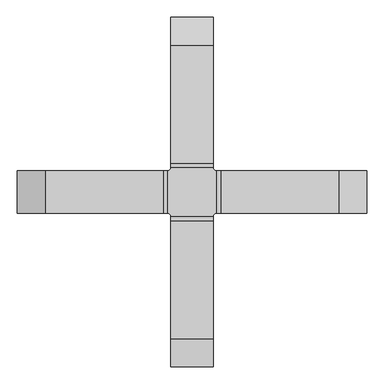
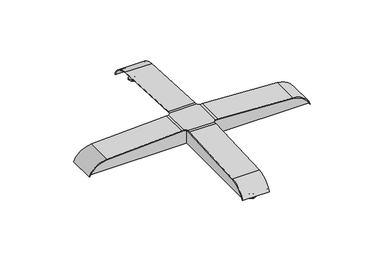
"""IFC4 building model written with IfcOpenShell, lengths in millimetres: furniture geometry, Stance_HC-Rise-Square_ Dining_Table : RTAH-4242-P."""

from ifc_helpers import new_model, si_unit, point, frame, origin, place, context, project, spatial, polyline, circle_curve, ellipse_curve, trimmed, source, transform, mapped, element, save
from ifc_brep_helpers import plane_surface, cylinder_surface, revolved_surface, advanced_brep


def furniture_f4def843(model_context):
    return source(origin(), model_context, "Body", "AdvancedBrep", [
        advanced_brep(
        [(-468.1814543, 0.0, 39.7002), (-459.9345457, 0.0, 39.7002), (-464.058, 0.0, 39.7002), (-468.1814543, 0.0, 14.7574), (-459.9345457, 0.0, 14.7574), (-472.0971, 0.0, 14.7574), (-456.0189, 0.0, 14.7574), (-472.0971, 0.0, 10.2849279), (-456.0189, 0.0, 10.2849279), (-482.0101589, 0.0, 0.0), (-446.1058411, 0.0, 0.0), (-446.1058411, 0.0, 3.5984853), (-482.0101589, 0.0, 3.5984853), (-464.058, 0.0, 0.0)],
        [
            (0, 1, circle_curve(frame((-464.058, 0.0, 39.7002), z_axis=(0.0, 0.0, 1.0), x_axis=(1.0, 0.0, 0.0)), 4.1234543)),
            (1, 2),
            (2, 0),
            (1, 0, circle_curve(frame((-464.058, 0.0, 39.7002), z_axis=(0.0, 0.0, 1.0), x_axis=(1.0, 0.0, 0.0)), 4.1234543)),
            (3, 4, circle_curve(frame((-464.058, 0.0, 14.7574), z_axis=(0.0, 0.0, 1.0), x_axis=(1.0, 0.0, 0.0)), 4.1234543)),
            (4, 1),
            (0, 3),
            (4, 3, circle_curve(frame((-464.058, 0.0, 14.7574), z_axis=(0.0, 0.0, 1.0), x_axis=(1.0, 0.0, 0.0)), 4.1234543)),
            (5, 6, circle_curve(frame((-464.058, 0.0, 14.7574), z_axis=(0.0, 0.0, 1.0), x_axis=(1.0, 0.0, 0.0)), 8.0391)),
            (6, 4),
            (3, 5),
            (6, 5, circle_curve(frame((-464.058, 0.0, 14.7574), z_axis=(0.0, 0.0, 1.0), x_axis=(1.0, 0.0, 0.0)), 8.0391)),
            (7, 8, circle_curve(frame((-464.058, 0.0, 10.2849279), z_axis=(0.0, 0.0, 1.0), x_axis=(1.0, 0.0, 0.0)), 8.0391)),
            (8, 6),
            (5, 7),
            (8, 7, circle_curve(frame((-464.058, 0.0, 10.2849279), z_axis=(0.0, 0.0, 1.0), x_axis=(1.0, 0.0, 0.0)), 8.0391)),
            (9, 10, circle_curve(frame((-464.058, 0.0, 0.0), z_axis=(0.0, 0.0, 1.0), x_axis=(1.0, 0.0, 0.0)), 17.9521589)),
            (10, 11),
            (11, 12, circle_curve(frame((-464.058, 0.0, 3.5984853), z_axis=(0.0, 0.0, -1.0), x_axis=(1.0, 0.0, 0.0)), 17.9521589)),
            (12, 9),
            (10, 9, circle_curve(frame((-464.058, 0.0, 0.0), z_axis=(0.0, 0.0, 1.0), x_axis=(1.0, 0.0, 0.0)), 17.9521589)),
            (12, 11, circle_curve(frame((-464.058, 0.0, 3.5984853), z_axis=(0.0, 0.0, -1.0), x_axis=(1.0, 0.0, 0.0)), 17.9521589)),
            (13, 10),
            (9, 13),
            (11, 8, circle_curve(frame((-446.538795, 0.0, 13.6481832), z_axis=(0.0, 1.0, 0.0), x_axis=(1.0, 0.0, 0.0)), 10.0590197)),
            (7, 12, circle_curve(frame((-481.577205, 0.0, 13.6481832), z_axis=(0.0, 1.0, 0.0), x_axis=(-1.0, 0.0, 0.0)), 10.0590197)),
        ],
        [
            plane_surface(frame((-464.058, 0.0, 39.7002), z_axis=(0.0, 0.0, 1.0), x_axis=(1.0, 0.0, 0.0))),
            cylinder_surface(frame((-464.058, 0.0, 39.7002), z_axis=(0.0, 0.0, -1.0), x_axis=(1.0, 0.0, 0.0)), 4.1234543),
            plane_surface(frame((-464.058, 0.0, 14.7574), z_axis=(0.0, 0.0, 1.0), x_axis=(1.0, 0.0, 0.0))),
            cylinder_surface(frame((-464.058, 0.0, 39.7002), z_axis=(0.0, 0.0, -1.0), x_axis=(1.0, 0.0, 0.0)), 8.0391),
            cylinder_surface(frame((-464.058, 0.0, 39.7002), z_axis=(0.0, 0.0, -1.0), x_axis=(1.0, 0.0, 0.0)), 17.9521589),
            plane_surface(frame((-464.058, 0.0, 0.0), z_axis=(0.0, 0.0, -1.0), x_axis=(1.0, 0.0, 0.0))),
            revolved_surface(trimmed(ellipse_curve(frame((-446.538795, 0.0, 13.6481832), z_axis=(0.0, -1.0, 0.0), x_axis=(1.0, 0.0, 0.0)), 10.0590197, 10.0590197), [point((-456.0189, 0.0, 10.2849279))], [point((-446.1058411, 0.0, 3.5984853))], True, "CARTESIAN"), (-464.058, 0.0, 39.7002), (0.0, 0.0, -1.0)),
        ],
        [
            (0, [[1, 2, 3]]),
            (0, [[4, -3, -2]]),
            (1, [[5, 6, -1, 7]]),
            (1, [[8, -7, -4, -6]]),
            (2, [[9, 10, -5, 11]]),
            (2, [[12, -11, -8, -10]]),
            (3, [[13, 14, -9, 15]]),
            (3, [[16, -15, -12, -14]]),
            (4, [[17, 18, 19, 20]]),
            (4, [[21, -20, 22, -18]]),
            (5, [[23, -17, 24]]),
            (5, [[-24, -21, -23]]),
            (6, [[-19, 25, -13, 26]]),
            (6, [[-22, -26, -16, -25]]),
        ],
    ),
        advanced_brep(
        [(464.058, 0.0, 39.7002), (459.9345457, 0.0, 39.7002), (468.1814543, 0.0, 39.7002), (459.9345457, 0.0, 14.7574), (468.1814543, 0.0, 14.7574), (456.0189, 0.0, 14.7574), (472.0971, 0.0, 14.7574), (456.0189, 0.0, 10.2849279), (472.0971, 0.0, 10.2849279), (482.0101589, 0.0, 3.5984853), (446.1058411, 0.0, 3.5984853), (446.1058411, 0.0, 0.0), (482.0101589, 0.0, 0.0), (464.058, 0.0, 0.0)],
        [
            (0, 1),
            (1, 2, circle_curve(frame((464.058, 0.0, 39.7002), z_axis=(0.0, 0.0, 1.0), x_axis=(-1.0, 0.0, 0.0)), 4.1234543)),
            (2, 0),
            (2, 1, circle_curve(frame((464.058, 0.0, 39.7002), z_axis=(0.0, 0.0, 1.0), x_axis=(-1.0, 0.0, 0.0)), 4.1234543)),
            (1, 3),
            (3, 4, circle_curve(frame((464.058, 0.0, 14.7574), z_axis=(0.0, 0.0, 1.0), x_axis=(-1.0, 0.0, 0.0)), 4.1234543)),
            (4, 2),
            (4, 3, circle_curve(frame((464.058, 0.0, 14.7574), z_axis=(0.0, 0.0, 1.0), x_axis=(-1.0, 0.0, 0.0)), 4.1234543)),
            (3, 5),
            (5, 6, circle_curve(frame((464.058, 0.0, 14.7574), z_axis=(0.0, 0.0, 1.0), x_axis=(-1.0, 0.0, 0.0)), 8.0391)),
            (6, 4),
            (6, 5, circle_curve(frame((464.058, 0.0, 14.7574), z_axis=(0.0, 0.0, 1.0), x_axis=(-1.0, 0.0, 0.0)), 8.0391)),
            (5, 7),
            (7, 8, circle_curve(frame((464.058, 0.0, 10.2849279), z_axis=(0.0, 0.0, 1.0), x_axis=(-1.0, 0.0, 0.0)), 8.0391)),
            (8, 6),
            (8, 7, circle_curve(frame((464.058, 0.0, 10.2849279), z_axis=(0.0, 0.0, 1.0), x_axis=(-1.0, 0.0, 0.0)), 8.0391)),
            (9, 10, circle_curve(frame((464.058, 0.0, 3.5984853), z_axis=(0.0, 0.0, -1.0), x_axis=(-1.0, 0.0, 0.0)), 17.9521589)),
            (10, 11),
            (11, 12, circle_curve(frame((464.058, 0.0, 0.0), z_axis=(0.0, 0.0, 1.0), x_axis=(-1.0, 0.0, 0.0)), 17.9521589)),
            (12, 9),
            (10, 9, circle_curve(frame((464.058, 0.0, 3.5984853), z_axis=(0.0, 0.0, -1.0), x_axis=(-1.0, 0.0, 0.0)), 17.9521589)),
            (12, 11, circle_curve(frame((464.058, 0.0, 0.0), z_axis=(0.0, 0.0, 1.0), x_axis=(-1.0, 0.0, 0.0)), 17.9521589)),
            (11, 13),
            (13, 12),
            (7, 10, circle_curve(frame((446.538795, 0.0, 13.6481832), z_axis=(0.0, 1.0, 0.0), x_axis=(-1.0, 0.0, 0.0)), 10.0590197)),
            (9, 8, circle_curve(frame((481.577205, 0.0, 13.6481832), z_axis=(0.0, 1.0, 0.0), x_axis=(1.0, 0.0, 0.0)), 10.0590197)),
        ],
        [
            plane_surface(frame((464.058, 0.0, 39.7002), z_axis=(0.0, 0.0, 1.0), x_axis=(-1.0, 0.0, 0.0))),
            cylinder_surface(frame((464.058, 0.0, 39.7002), z_axis=(0.0, 0.0, 1.0), x_axis=(-1.0, 0.0, 0.0)), 4.1234543),
            plane_surface(frame((464.058, 0.0, 14.7574), z_axis=(0.0, 0.0, 1.0), x_axis=(-1.0, 0.0, 0.0))),
            cylinder_surface(frame((464.058, 0.0, 39.7002), z_axis=(0.0, 0.0, 1.0), x_axis=(-1.0, 0.0, 0.0)), 8.0391),
            cylinder_surface(frame((464.058, 0.0, 39.7002), z_axis=(0.0, 0.0, 1.0), x_axis=(-1.0, 0.0, 0.0)), 17.9521589),
            plane_surface(frame((464.058, 0.0, 0.0), z_axis=(0.0, 0.0, -1.0), x_axis=(-1.0, 0.0, 0.0))),
            revolved_surface(trimmed(ellipse_curve(frame((446.538795, 0.0, 13.6481832), z_axis=(0.0, -1.0, 0.0), x_axis=(-1.0, 0.0, 0.0)), 10.0590197, 10.0590197), [point((446.1058411, 0.0, 3.5984853))], [point((456.0189, 0.0, 10.2849279))], True, "CARTESIAN"), (464.058, 0.0, 39.7002), (0.0, 0.0, 1.0)),
        ],
        [
            (0, [[1, 2, 3]]),
            (0, [[-3, 4, -1]]),
            (1, [[-2, 5, 6, 7]]),
            (1, [[-4, -7, 8, -5]]),
            (2, [[-6, 9, 10, 11]]),
            (2, [[-8, -11, 12, -9]]),
            (3, [[-10, 13, 14, 15]]),
            (3, [[-12, -15, 16, -13]]),
            (4, [[17, 18, 19, 20]]),
            (4, [[21, -20, 22, -18]]),
            (5, [[-19, 23, 24]]),
            (5, [[-22, -24, -23]]),
            (6, [[-14, 25, -17, 26]]),
            (6, [[-16, -26, -21, -25]]),
        ],
    ),
        advanced_brep(
        [(0.0, -464.058, 39.7002), (0.0, -459.9345457, 39.7002), (0.0, -468.1814543, 39.7002), (0.0, -459.9345457, 14.7574), (0.0, -468.1814543, 14.7574), (0.0, -456.0189, 14.7574), (0.0, -472.0971, 14.7574), (0.0, -456.0189, 10.2849279), (0.0, -472.0971, 10.2849279), (0.0, -482.0101589, 3.5984853), (0.0, -446.1058411, 3.5984853), (0.0, -446.1058411, 0.0), (0.0, -482.0101589, 0.0), (0.0, -464.058, 0.0)],
        [
            (0, 1),
            (1, 2, circle_curve(frame((0.0, -464.058, 39.7002), z_axis=(0.0, 0.0, 1.0), x_axis=(0.0, 1.0, 0.0)), 4.1234543)),
            (2, 0),
            (2, 1, circle_curve(frame((0.0, -464.058, 39.7002), z_axis=(0.0, 0.0, 1.0), x_axis=(0.0, 1.0, 0.0)), 4.1234543)),
            (1, 3),
            (3, 4, circle_curve(frame((0.0, -464.058, 14.7574), z_axis=(0.0, 0.0, 1.0), x_axis=(0.0, 1.0, 0.0)), 4.1234543)),
            (4, 2),
            (4, 3, circle_curve(frame((0.0, -464.058, 14.7574), z_axis=(0.0, 0.0, 1.0), x_axis=(0.0, 1.0, 0.0)), 4.1234543)),
            (3, 5),
            (5, 6, circle_curve(frame((0.0, -464.058, 14.7574), z_axis=(0.0, 0.0, 1.0), x_axis=(0.0, 1.0, 0.0)), 8.0391)),
            (6, 4),
            (6, 5, circle_curve(frame((0.0, -464.058, 14.7574), z_axis=(0.0, 0.0, 1.0), x_axis=(0.0, 1.0, 0.0)), 8.0391)),
            (5, 7),
            (7, 8, circle_curve(frame((0.0, -464.058, 10.2849279), z_axis=(0.0, 0.0, 1.0), x_axis=(0.0, 1.0, 0.0)), 8.0391)),
            (8, 6),
            (8, 7, circle_curve(frame((0.0, -464.058, 10.2849279), z_axis=(0.0, 0.0, 1.0), x_axis=(0.0, 1.0, 0.0)), 8.0391)),
            (9, 10, circle_curve(frame((0.0, -464.058, 3.5984853), z_axis=(0.0, 0.0, -1.0), x_axis=(0.0, 1.0, 0.0)), 17.9521589)),
            (10, 11),
            (11, 12, circle_curve(frame((0.0, -464.058, 0.0), z_axis=(0.0, 0.0, 1.0), x_axis=(0.0, 1.0, 0.0)), 17.9521589)),
            (12, 9),
            (10, 9, circle_curve(frame((0.0, -464.058, 3.5984853), z_axis=(0.0, 0.0, -1.0), x_axis=(0.0, 1.0, 0.0)), 17.9521589)),
            (12, 11, circle_curve(frame((0.0, -464.058, 0.0), z_axis=(0.0, 0.0, 1.0), x_axis=(0.0, 1.0, 0.0)), 17.9521589)),
            (11, 13),
            (13, 12),
            (7, 10, circle_curve(frame((0.0, -446.538795, 13.6481832), z_axis=(1.0, 0.0, 0.0), x_axis=(0.0, 1.0, 0.0)), 10.0590197)),
            (9, 8, circle_curve(frame((0.0, -481.577205, 13.6481832), z_axis=(1.0, 0.0, 0.0), x_axis=(0.0, -1.0, 0.0)), 10.0590197)),
        ],
        [
            plane_surface(frame((0.0, -464.058, 39.7002), z_axis=(0.0, 0.0, 1.0), x_axis=(0.0, 1.0, 0.0))),
            cylinder_surface(frame((0.0, -464.058, 39.7002), z_axis=(0.0, 0.0, 1.0), x_axis=(0.0, 1.0, 0.0)), 4.1234543),
            plane_surface(frame((0.0, -464.058, 14.7574), z_axis=(0.0, 0.0, 1.0), x_axis=(0.0, 1.0, 0.0))),
            cylinder_surface(frame((0.0, -464.058, 39.7002), z_axis=(0.0, 0.0, 1.0), x_axis=(0.0, 1.0, 0.0)), 8.0391),
            cylinder_surface(frame((0.0, -464.058, 39.7002), z_axis=(0.0, 0.0, 1.0), x_axis=(0.0, 1.0, 0.0)), 17.9521589),
            plane_surface(frame((0.0, -464.058, 0.0), z_axis=(0.0, 0.0, -1.0), x_axis=(0.0, 1.0, 0.0))),
            revolved_surface(trimmed(ellipse_curve(frame((0.0, -446.538795, 13.6481832), z_axis=(-1.0, 0.0, 0.0), x_axis=(0.0, 1.0, 0.0)), 10.0590197, 10.0590197), [point((0.0, -446.1058411, 3.5984853))], [point((0.0, -456.0189, 10.2849279))], True, "CARTESIAN"), (0.0, -464.058, 39.7002), (0.0, 0.0, 1.0)),
        ],
        [
            (0, [[1, 2, 3]]),
            (0, [[-3, 4, -1]]),
            (1, [[-2, 5, 6, 7]]),
            (1, [[-4, -7, 8, -5]]),
            (2, [[-6, 9, 10, 11]]),
            (2, [[-8, -11, 12, -9]]),
            (3, [[-10, 13, 14, 15]]),
            (3, [[-12, -15, 16, -13]]),
            (4, [[17, 18, 19, 20]]),
            (4, [[21, -20, 22, -18]]),
            (5, [[-19, 23, 24]]),
            (5, [[-22, -24, -23]]),
            (6, [[-14, 25, -17, 26]]),
            (6, [[-16, -26, -21, -25]]),
        ],
    ),
        advanced_brep(
        [(0.0, 468.1814543, 39.7002), (0.0, 459.9345457, 39.7002), (0.0, 464.058, 39.7002), (0.0, 468.1814543, 14.7574), (0.0, 459.9345457, 14.7574), (0.0, 472.0971, 14.7574), (0.0, 456.0189, 14.7574), (0.0, 472.0971, 10.2849279), (0.0, 456.0189, 10.2849279), (0.0, 482.0101589, 0.0), (0.0, 446.1058411, 0.0), (0.0, 446.1058411, 3.5984853), (0.0, 482.0101589, 3.5984853), (0.0, 464.058, 0.0)],
        [
            (0, 1, circle_curve(frame((0.0, 464.058, 39.7002), z_axis=(0.0, 0.0, 1.0), x_axis=(0.0, -1.0, 0.0)), 4.1234543)),
            (1, 2),
            (2, 0),
            (1, 0, circle_curve(frame((0.0, 464.058, 39.7002), z_axis=(0.0, 0.0, 1.0), x_axis=(0.0, -1.0, 0.0)), 4.1234543)),
            (3, 4, circle_curve(frame((0.0, 464.058, 14.7574), z_axis=(0.0, 0.0, 1.0), x_axis=(0.0, -1.0, 0.0)), 4.1234543)),
            (4, 1),
            (0, 3),
            (4, 3, circle_curve(frame((0.0, 464.058, 14.7574), z_axis=(0.0, 0.0, 1.0), x_axis=(0.0, -1.0, 0.0)), 4.1234543)),
            (5, 6, circle_curve(frame((0.0, 464.058, 14.7574), z_axis=(0.0, 0.0, 1.0), x_axis=(0.0, -1.0, 0.0)), 8.0391)),
            (6, 4),
            (3, 5),
            (6, 5, circle_curve(frame((0.0, 464.058, 14.7574), z_axis=(0.0, 0.0, 1.0), x_axis=(0.0, -1.0, 0.0)), 8.0391)),
            (7, 8, circle_curve(frame((0.0, 464.058, 10.2849279), z_axis=(0.0, 0.0, 1.0), x_axis=(0.0, -1.0, 0.0)), 8.0391)),
            (8, 6),
            (5, 7),
            (8, 7, circle_curve(frame((0.0, 464.058, 10.2849279), z_axis=(0.0, 0.0, 1.0), x_axis=(0.0, -1.0, 0.0)), 8.0391)),
            (9, 10, circle_curve(frame((0.0, 464.058, 0.0), z_axis=(0.0, 0.0, 1.0), x_axis=(0.0, -1.0, 0.0)), 17.9521589)),
            (10, 11),
            (11, 12, circle_curve(frame((0.0, 464.058, 3.5984853), z_axis=(0.0, 0.0, -1.0), x_axis=(0.0, -1.0, 0.0)), 17.9521589)),
            (12, 9),
            (10, 9, circle_curve(frame((0.0, 464.058, 0.0), z_axis=(0.0, 0.0, 1.0), x_axis=(0.0, -1.0, 0.0)), 17.9521589)),
            (12, 11, circle_curve(frame((0.0, 464.058, 3.5984853), z_axis=(0.0, 0.0, -1.0), x_axis=(0.0, -1.0, 0.0)), 17.9521589)),
            (13, 10),
            (9, 13),
            (11, 8, circle_curve(frame((0.0, 446.538795, 13.6481832), z_axis=(1.0, 0.0, 0.0), x_axis=(0.0, -1.0, 0.0)), 10.0590197)),
            (7, 12, circle_curve(frame((0.0, 481.577205, 13.6481832), z_axis=(1.0, 0.0, 0.0), x_axis=(0.0, 1.0, 0.0)), 10.0590197)),
        ],
        [
            plane_surface(frame((0.0, 464.058, 39.7002), z_axis=(0.0, 0.0, 1.0), x_axis=(0.0, -1.0, 0.0))),
            cylinder_surface(frame((0.0, 464.058, 39.7002), z_axis=(0.0, 0.0, -1.0), x_axis=(0.0, -1.0, 0.0)), 4.1234543),
            plane_surface(frame((0.0, 464.058, 14.7574), z_axis=(0.0, 0.0, 1.0), x_axis=(0.0, -1.0, 0.0))),
            cylinder_surface(frame((0.0, 464.058, 39.7002), z_axis=(0.0, 0.0, -1.0), x_axis=(0.0, -1.0, 0.0)), 8.0391),
            cylinder_surface(frame((0.0, 464.058, 39.7002), z_axis=(0.0, 0.0, -1.0), x_axis=(0.0, -1.0, 0.0)), 17.9521589),
            plane_surface(frame((0.0, 464.058, 0.0), z_axis=(0.0, 0.0, -1.0), x_axis=(0.0, -1.0, 0.0))),
            revolved_surface(trimmed(ellipse_curve(frame((0.0, 446.538795, 13.6481832), z_axis=(-1.0, 0.0, 0.0), x_axis=(0.0, -1.0, 0.0)), 10.0590197, 10.0590197), [point((0.0, 456.0189, 10.2849279))], [point((0.0, 446.1058411, 3.5984853))], True, "CARTESIAN"), (0.0, 464.058, 39.7002), (0.0, 0.0, -1.0)),
        ],
        [
            (0, [[1, 2, 3]]),
            (0, [[4, -3, -2]]),
            (1, [[5, 6, -1, 7]]),
            (1, [[8, -7, -4, -6]]),
            (2, [[9, 10, -5, 11]]),
            (2, [[12, -11, -8, -10]]),
            (3, [[13, 14, -9, 15]]),
            (3, [[16, -15, -12, -14]]),
            (4, [[17, 18, 19, 20]]),
            (4, [[21, -20, 22, -18]]),
            (5, [[23, -17, 24]]),
            (5, [[-24, -21, -23]]),
            (6, [[-19, 25, -13, 26]]),
            (6, [[-22, -26, -16, -25]]),
        ],
    ),
        advanced_brep(
        [(60.325, 420.6378786, 74.5825817), (60.325, 498.1978983, 20.2927555), (60.325, 500.6635132, 21.3402677), (60.325, 420.7780817, 77.2578166), (60.325, 82.318215, 94.9957465), (60.325, 70.2140123, 95.3127062), (60.325, 70.2140123, 92.6338), (60.325, 82.1780119, 92.3205116), (60.325, -420.6378786, 74.5825817), (60.325, -82.1780119, 92.3205116), (60.325, -70.2140123, 92.6338), (60.325, -70.2140123, 95.3127062), (60.325, -82.318215, 94.9957465), (60.325, -420.7780817, 77.2578166), (60.325, -500.6635132, 21.3402677), (60.325, -498.1978983, 20.2927555), (-60.325, 420.6378786, 74.5825817), (-60.325, 82.1780119, 92.3205116), (-60.325, 70.2140123, 92.6338), (-60.325, 70.2140123, 95.3127062), (-60.325, 82.318215, 94.9957465), (-60.325, 420.7780817, 77.2578166), (-60.325, 500.6635132, 21.3402677), (-60.325, 498.1978983, 20.2927555), (-60.325, -420.6378786, 74.5825817), (-60.325, -498.1978983, 20.2927555), (-60.325, -500.6635132, 21.3402677), (-60.325, -420.7780817, 77.2578166), (-60.325, -82.318215, 94.9957465), (-60.325, -70.2140123, 95.3127062), (-60.325, -70.2140123, 92.6338), (-60.325, -82.1780119, 92.3205116), (-70.2648498, -60.6285662, 95.3127062), (-60.639995, -70.2140123, 95.3127062), (60.639995, -70.2140123, 95.3127062), (70.1631748, -60.6516433, 95.3127062), (70.1631748, -60.325, 95.3127062), (70.1631748, 60.325, 95.3127062), (70.1631748, 60.6516433, 95.3127062), (60.639995, 70.2140123, 95.3127062), (-60.639995, 70.2140123, 95.3127062), (-70.2648498, 60.6285662, 95.3127062), (-70.2648498, 60.325, 95.3127062), (-70.2648498, -60.325, 95.3127062), (-70.2648498, 60.6285662, 92.6338), (-60.639995, 70.2140123, 92.6338), (60.639995, 70.2140123, 92.6338), (70.1631748, 60.6516433, 92.6338), (70.1631748, 60.325, 92.6338), (70.1631748, -60.325, 92.6338), (70.1631748, -60.6516433, 92.6338), (60.639995, -70.2140123, 92.6338), (-60.639995, -70.2140123, 92.6338), (-70.2648498, -60.6285662, 92.6338), (-70.2648498, -60.325, 92.6338), (-70.2648498, 60.325, 92.6338), (-420.688716, 60.325, 74.5825817), (-498.2487358, 60.325, 20.2927555), (-500.7143507, 60.325, 21.3402677), (-420.8289192, 60.325, 77.2578166), (-82.3690525, 60.325, 94.9957465), (-82.2288494, 60.325, 92.3205116), (420.5870411, 60.325, 74.5825817), (82.1271744, 60.325, 92.3205116), (82.2673775, 60.325, 94.9957465), (420.7272442, 60.325, 77.2578166), (500.6126758, 60.325, 21.3402677), (498.1470609, 60.325, 20.2927555), (-420.688716, -60.325, 74.5825817), (-82.2288494, -60.325, 92.3205116), (-82.3690525, -60.325, 94.9957465), (-420.8289192, -60.325, 77.2578166), (-500.7143507, -60.325, 21.3402677), (-498.2487358, -60.325, 20.2927555), (420.5870411, -60.325, 74.5825817), (498.1470609, -60.325, 20.2927555), (500.6126758, -60.325, 21.3402677), (420.7272442, -60.325, 77.2578166), (82.2673775, -60.325, 94.9957465), (82.1271744, -60.325, 92.3205116)],
        [
            (0, 1, circle_curve(frame((60.325, 415.9616501, -14.6451736), z_axis=(-1.0, 0.0, 0.0), x_axis=(0.0, -1.0, 0.0)), 89.3502066)),
            (1, 2),
            (2, 3, circle_curve(frame((60.325, 415.9616501, -14.6451736), z_axis=(1.0, 0.0, 0.0), x_axis=(0.0, -1.0, 0.0)), 92.0291128)),
            (3, 4),
            (4, 5, circle_curve(frame((60.325, 70.2140123, -135.9662), z_axis=(1.0, 0.0, 0.0), x_axis=(0.0, -1.0, 0.0)), 231.2789063)),
            (5, 6),
            (6, 7, circle_curve(frame((60.325, 70.2140123, -135.9662), z_axis=(-1.0, 0.0, 0.0), x_axis=(0.0, -1.0, 0.0)), 228.6)),
            (7, 0),
            (8, 9),
            (9, 10, circle_curve(frame((60.325, -70.2140123, -135.9662), z_axis=(-1.0, 0.0, 0.0), x_axis=(0.0, 1.0, 0.0)), 228.6)),
            (10, 11),
            (11, 12, circle_curve(frame((60.325, -70.2140123, -135.9662), z_axis=(1.0, 0.0, 0.0), x_axis=(0.0, 1.0, 0.0)), 231.2789063)),
            (12, 13),
            (13, 14, circle_curve(frame((60.325, -415.9616501, -14.6451736), z_axis=(1.0, 0.0, 0.0), x_axis=(0.0, 1.0, 0.0)), 92.0291128)),
            (14, 15),
            (15, 8, circle_curve(frame((60.325, -415.9616501, -14.6451736), z_axis=(-1.0, 0.0, 0.0), x_axis=(0.0, 1.0, 0.0)), 89.3502066)),
            (16, 17),
            (17, 18, circle_curve(frame((-60.325, 70.2140123, -135.9662), z_axis=(1.0, 0.0, 0.0), x_axis=(0.0, -1.0, 0.0)), 228.6)),
            (18, 19),
            (19, 20, circle_curve(frame((-60.325, 70.2140123, -135.9662), z_axis=(-1.0, 0.0, 0.0), x_axis=(0.0, -1.0, 0.0)), 231.2789063)),
            (20, 21),
            (21, 22, circle_curve(frame((-60.325, 415.9616501, -14.6451736), z_axis=(-1.0, 0.0, 0.0), x_axis=(0.0, -1.0, 0.0)), 92.0291128)),
            (22, 23),
            (23, 16, circle_curve(frame((-60.325, 415.9616501, -14.6451736), z_axis=(1.0, 0.0, 0.0), x_axis=(0.0, -1.0, 0.0)), 89.3502066)),
            (24, 25, circle_curve(frame((-60.325, -415.9616501, -14.6451736), z_axis=(1.0, 0.0, 0.0), x_axis=(0.0, 1.0, 0.0)), 89.3502066)),
            (25, 26),
            (26, 27, circle_curve(frame((-60.325, -415.9616501, -14.6451736), z_axis=(-1.0, 0.0, 0.0), x_axis=(0.0, 1.0, 0.0)), 92.0291128)),
            (27, 28),
            (28, 29, circle_curve(frame((-60.325, -70.2140123, -135.9662), z_axis=(-1.0, 0.0, 0.0), x_axis=(0.0, 1.0, 0.0)), 231.2789063)),
            (29, 30),
            (30, 31, circle_curve(frame((-60.325, -70.2140123, -135.9662), z_axis=(1.0, 0.0, 0.0), x_axis=(0.0, 1.0, 0.0)), 228.6)),
            (31, 24),
            (7, 17),
            (16, 0),
            (23, 1),
            (22, 2),
            (32, 33, circle_curve(frame((-73.025, -73.025, 95.3127062), z_axis=(0.0, 0.0, -1.0), x_axis=(1.0, 0.0, 0.0)), 12.7)),
            (33, 29),
            (29, 11),
            (11, 34),
            (34, 35, circle_curve(frame((73.025, -73.025, 95.3127062), z_axis=(0.0, 0.0, -1.0), x_axis=(1.0, 0.0, 0.0)), 12.7)),
            (35, 36),
            (36, 37),
            (37, 38),
            (38, 39, circle_curve(frame((73.025, 73.025, 95.3127062), z_axis=(0.0, 0.0, -1.0), x_axis=(1.0, 0.0, 0.0)), 12.7)),
            (39, 5),
            (5, 19),
            (19, 40),
            (40, 41, circle_curve(frame((-73.025, 73.025, 95.3127062), z_axis=(0.0, 0.0, -1.0), x_axis=(1.0, 0.0, 0.0)), 12.7)),
            (41, 42),
            (42, 43),
            (43, 32),
            (44, 45, circle_curve(frame((-73.025, 73.025, 92.6338), z_axis=(0.0, 0.0, 1.0), x_axis=(1.0, 0.0, 0.0)), 12.7)),
            (45, 18),
            (18, 6),
            (6, 46),
            (46, 47, circle_curve(frame((73.025, 73.025, 92.6338), z_axis=(0.0, 0.0, 1.0), x_axis=(1.0, 0.0, 0.0)), 12.7)),
            (47, 48),
            (48, 49),
            (49, 50),
            (50, 51, circle_curve(frame((73.025, -73.025, 92.6338), z_axis=(0.0, 0.0, 1.0), x_axis=(1.0, 0.0, 0.0)), 12.7)),
            (51, 10),
            (10, 30),
            (30, 52),
            (52, 53, circle_curve(frame((-73.025, -73.025, 92.6338), z_axis=(0.0, 0.0, 1.0), x_axis=(1.0, 0.0, 0.0)), 12.7)),
            (53, 54),
            (54, 55),
            (55, 44),
            (32, 53),
            (52, 33),
            (34, 51),
            (50, 35),
            (38, 47),
            (46, 39),
            (40, 45),
            (44, 41),
            (21, 3),
            (20, 4),
            (8, 24),
            (31, 9),
            (28, 12),
            (27, 13),
            (26, 14),
            (25, 15),
            (43, 54),
            (55, 42),
            (49, 36),
            (37, 48),
            (56, 57, circle_curve(frame((-416.0124875, 60.325, -14.6451736), z_axis=(0.0, -1.0, 0.0), x_axis=(1.0, 0.0, 0.0)), 89.3502066)),
            (57, 58),
            (58, 59, circle_curve(frame((-416.0124875, 60.325, -14.6451736), z_axis=(0.0, 1.0, 0.0), x_axis=(1.0, 0.0, 0.0)), 92.0291128)),
            (59, 60),
            (60, 42, circle_curve(frame((-70.2648498, 60.325, -135.9662), z_axis=(0.0, 1.0, 0.0), x_axis=(1.0, 0.0, 0.0)), 231.2789063)),
            (55, 61, circle_curve(frame((-70.2648498, 60.325, -135.9662), z_axis=(0.0, -1.0, 0.0), x_axis=(1.0, 0.0, 0.0)), 228.6)),
            (61, 56),
            (62, 63),
            (63, 48, circle_curve(frame((70.1631748, 60.325, -135.9662), z_axis=(0.0, -1.0, 0.0), x_axis=(-1.0, 0.0, 0.0)), 228.6)),
            (37, 64, circle_curve(frame((70.1631748, 60.325, -135.9662), z_axis=(0.0, 1.0, 0.0), x_axis=(-1.0, 0.0, 0.0)), 231.2789063)),
            (64, 65),
            (65, 66, circle_curve(frame((415.9108126, 60.325, -14.6451736), z_axis=(0.0, 1.0, 0.0), x_axis=(-1.0, 0.0, 0.0)), 92.0291128)),
            (66, 67),
            (67, 62, circle_curve(frame((415.9108126, 60.325, -14.6451736), z_axis=(0.0, -1.0, 0.0), x_axis=(-1.0, 0.0, 0.0)), 89.3502066)),
            (68, 69),
            (69, 54, circle_curve(frame((-70.2648498, -60.325, -135.9662), z_axis=(0.0, 1.0, 0.0), x_axis=(1.0, 0.0, 0.0)), 228.6)),
            (43, 70, circle_curve(frame((-70.2648498, -60.325, -135.9662), z_axis=(0.0, -1.0, 0.0), x_axis=(1.0, 0.0, 0.0)), 231.2789063)),
            (70, 71),
            (71, 72, circle_curve(frame((-416.0124875, -60.325, -14.6451736), z_axis=(0.0, -1.0, 0.0), x_axis=(1.0, 0.0, 0.0)), 92.0291128)),
            (72, 73),
            (73, 68, circle_curve(frame((-416.0124875, -60.325, -14.6451736), z_axis=(0.0, 1.0, 0.0), x_axis=(1.0, 0.0, 0.0)), 89.3502066)),
            (74, 75, circle_curve(frame((415.9108126, -60.325, -14.6451736), z_axis=(0.0, 1.0, 0.0), x_axis=(-1.0, 0.0, 0.0)), 89.3502066)),
            (75, 76),
            (76, 77, circle_curve(frame((415.9108126, -60.325, -14.6451736), z_axis=(0.0, -1.0, 0.0), x_axis=(-1.0, 0.0, 0.0)), 92.0291128)),
            (77, 78),
            (78, 36, circle_curve(frame((70.1631748, -60.325, -135.9662), z_axis=(0.0, -1.0, 0.0), x_axis=(-1.0, 0.0, 0.0)), 231.2789063)),
            (49, 79, circle_curve(frame((70.1631748, -60.325, -135.9662), z_axis=(0.0, 1.0, 0.0), x_axis=(-1.0, 0.0, 0.0)), 228.6)),
            (79, 74),
            (56, 68),
            (73, 57),
            (72, 58),
            (71, 59),
            (70, 60),
            (69, 61),
            (62, 74),
            (79, 63),
            (78, 64),
            (77, 65),
            (76, 66),
            (75, 67),
        ],
        [
            plane_surface(frame((60.325, 326.6114435, -14.6451736), z_axis=(1.0, 0.0, 0.0), x_axis=(0.0, 0.0, 1.0))),
            plane_surface(frame((-60.325, 326.6114435, -14.6451736), z_axis=(-1.0, 0.0, 0.0), x_axis=(0.0, 0.0, -1.0))),
            plane_surface(frame((60.325, 82.1780119, 92.3205116), z_axis=(0.0, -0.05233595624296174, -0.998629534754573), x_axis=(-1.0, 0.0, 0.0))),
            revolved_surface(polyline([(-60.325, 326.61144349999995, -14.6451736), (60.325, 326.61144349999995, -14.6451736)]), (-60.325, 415.9616501, -14.6451736), (-1.0, 0.0, 0.0)),
            plane_surface(frame((60.325, 498.1978983, 20.2927555), z_axis=(0.0, 0.3910223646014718, -0.9203811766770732), x_axis=(-1.0, 0.0, 0.0))),
            plane_surface(frame((-70.2648498, -60.325, 95.3127062), z_axis=(0.0, 0.0, 1.0), x_axis=(0.0, -1.0, 0.0))),
            plane_surface(frame((-70.2648498, -60.325, 92.6338), z_axis=(0.0, 0.0, -1.0), x_axis=(0.0, 1.0, 0.0))),
            revolved_surface(polyline([(-60.325, -73.025, 92.6338), (-60.325, -73.025, 95.3127062)]), (-73.025, -73.025, 92.6338), (0.0, 0.0, -1.0)),
            revolved_surface(polyline([(85.72500000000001, -73.025, 92.6338), (85.72500000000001, -73.025, 95.3127062)]), (73.025, -73.025, 92.6338), (0.0, 0.0, -1.0)),
            revolved_surface(polyline([(85.72500000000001, 73.025, 92.6338), (85.72500000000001, 73.025, 95.3127062)]), (73.025, 73.025, 92.6338), (0.0, 0.0, -1.0)),
            revolved_surface(polyline([(-60.325, 73.025, 92.6338), (-60.325, 73.025, 95.3127062)]), (-73.025, 73.025, 92.6338), (0.0, 0.0, -1.0)),
            cylinder_surface(frame((-60.325, 415.9616501, -14.6451736), z_axis=(1.0, 0.0, 0.0), x_axis=(0.0, -1.0, 0.0)), 92.0291128),
            plane_surface(frame((60.325, 420.7780817, 77.2578166), z_axis=(0.0, 0.05233595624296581, 0.9986295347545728), x_axis=(-1.0, 0.0, 0.0))),
            cylinder_surface(frame((-60.325, 70.2140123, -135.9662), z_axis=(1.0, 0.0, 0.0), x_axis=(0.0, -1.0, 0.0)), 231.2789063),
            revolved_surface(polyline([(-60.325, -158.3859877, -135.9662), (60.325, -158.3859877, -135.9662)]), (-60.325, 70.2140123, -135.9662), (-1.0, 0.0, 0.0)),
            plane_surface(frame((60.325, -420.6378786, 74.5825817), z_axis=(0.0, 0.05233595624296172, -0.998629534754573), x_axis=(-1.0, 0.0, 0.0))),
            revolved_surface(polyline([(-60.325, 158.3859877, -135.9662), (60.325, 158.3859877, -135.9662)]), (0.0, -70.2140123, -135.9662), (-1.0, 0.0, 0.0)),
            cylinder_surface(frame((0.0, -70.2140123, -135.9662), z_axis=(1.0, 0.0, 0.0), x_axis=(0.0, 1.0, 0.0)), 231.2789063),
            plane_surface(frame((60.325, -82.318215, 94.9957465), z_axis=(0.0, -0.05233595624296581, 0.9986295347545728), x_axis=(-1.0, 0.0, 0.0))),
            cylinder_surface(frame((0.0, -415.9616501, -14.6451736), z_axis=(1.0, 0.0, 0.0), x_axis=(0.0, 1.0, 0.0)), 92.0291128),
            plane_surface(frame((60.325, -500.6635132, 21.3402677), z_axis=(0.0, -0.3910223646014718, -0.9203811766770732), x_axis=(-1.0, 0.0, 0.0))),
            revolved_surface(polyline([(-60.325, -326.61144349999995, -14.6451736), (60.325, -326.61144349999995, -14.6451736)]), (0.0, -415.9616501, -14.6451736), (-1.0, 0.0, 0.0)),
            plane_surface(frame((-70.2648498, 60.6285662, 95.3127062), z_axis=(-1.0, 0.0, 0.0), x_axis=(0.0, 0.0, -1.0))),
            plane_surface(frame((-60.639995, -70.2140123, 95.3127062), z_axis=(0.0, -1.0, 0.0), x_axis=(0.0, 0.0, -1.0))),
            plane_surface(frame((70.1631748, -60.6516433, 95.3127062), z_axis=(1.0, 0.0, 0.0), x_axis=(0.0, 0.0, -1.0))),
            plane_surface(frame((60.639995, 70.2140123, 95.3127062), z_axis=(0.0, 1.0, 0.0), x_axis=(0.0, 0.0, -1.0))),
            plane_surface(frame((-326.662281, 60.325, -14.6451736), z_axis=(0.0, 1.0, 0.0), x_axis=(0.0, 0.0, 1.0))),
            plane_surface(frame((-326.662281, -60.325, -14.6451736), z_axis=(0.0, -1.0, 0.0), x_axis=(0.0, 0.0, -1.0))),
            revolved_surface(polyline([(-326.66228090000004, -60.325, -14.6451736), (-326.66228090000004, 60.325, -14.6451736)]), (-416.0124875, -60.325, -14.6451736), (0.0, -1.0, 0.0)),
            plane_surface(frame((-498.2487358, 60.325, 20.2927555), z_axis=(-0.3910223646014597, 0.0, -0.9203811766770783), x_axis=(0.0, -1.0, 0.0))),
            cylinder_surface(frame((-416.0124875, -60.325, -14.6451736), z_axis=(0.0, 1.0, 0.0), x_axis=(1.0, 0.0, 0.0)), 92.0291128),
            plane_surface(frame((-420.8289192, 60.325, 77.2578166), z_axis=(-0.05233595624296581, 0.0, 0.9986295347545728), x_axis=(0.0, -1.0, 0.0))),
            cylinder_surface(frame((-70.2648498, -60.325, -135.9662), z_axis=(0.0, 1.0, 0.0), x_axis=(1.0, 0.0, 0.0)), 231.2789063),
            revolved_surface(polyline([(158.3351502, -60.325, -135.9662), (158.3351502, 60.325, -135.9662)]), (-70.2648498, -60.325, -135.9662), (0.0, -1.0, 0.0)),
            plane_surface(frame((-82.2288494, 60.325, 92.3205116), z_axis=(0.05233595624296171, 0.0, -0.998629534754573), x_axis=(0.0, -1.0, 0.0))),
            plane_surface(frame((420.5870411, 60.325, 74.5825817), z_axis=(-0.0523359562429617, 0.0, -0.998629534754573), x_axis=(0.0, -1.0, 0.0))),
            revolved_surface(polyline([(-158.4368252, -60.325, -135.9662), (-158.4368252, 60.325, -135.9662)]), (70.1631748, 0.0, -135.9662), (0.0, -1.0, 0.0)),
            cylinder_surface(frame((70.1631748, 0.0, -135.9662), z_axis=(0.0, 1.0, 0.0), x_axis=(-1.0, 0.0, 0.0)), 231.2789063),
            plane_surface(frame((82.2673775, 60.325, 94.9957465), z_axis=(0.05233595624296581, 0.0, 0.9986295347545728), x_axis=(0.0, -1.0, 0.0))),
            cylinder_surface(frame((415.9108126, 0.0, -14.6451736), z_axis=(0.0, 1.0, 0.0), x_axis=(-1.0, 0.0, 0.0)), 92.0291128),
            plane_surface(frame((500.6126758, 60.325, 21.3402677), z_axis=(0.3910223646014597, 0.0, -0.9203811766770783), x_axis=(0.0, -1.0, 0.0))),
            revolved_surface(polyline([(326.560606, -60.325, -14.6451736), (326.560606, 60.325, -14.6451736)]), (415.9108126, 0.0, -14.6451736), (0.0, -1.0, 0.0)),
        ],
        [
            (0, [[1, 2, 3, 4, 5, 6, 7, 8]]),
            (0, [[9, 10, 11, 12, 13, 14, 15, 16]]),
            (1, [[17, 18, 19, 20, 21, 22, 23, 24]]),
            (1, [[25, 26, 27, 28, 29, 30, 31, 32]]),
            (2, [[-8, 33, -17, 34]]),
            (3, [[-1, -34, -24, 35]]),
            (4, [[-2, -35, -23, 36]]),
            (5, [[37, 38, 39, 40, 41, 42, 43, 44, 45, 46, 47, 48, 49, 50, 51, 52]]),
            (6, [[53, 54, 55, 56, 57, 58, 59, 60, 61, 62, 63, 64, 65, 66, 67, 68]]),
            (7, [[-37, 69, -65, 70]]),
            (8, [[-41, 71, -61, 72]]),
            (9, [[-45, 73, -57, 74]]),
            (10, [[-49, 75, -53, 76]]),
            (11, [[-3, -36, -22, 77]]),
            (12, [[-4, -77, -21, 78]]),
            (13, [[-5, -78, -20, -47]]),
            (14, [[-7, -55, -18, -33]]),
            (15, [[-9, 79, -32, 80]]),
            (16, [[-10, -80, -31, -63]]),
            (17, [[-12, -39, -29, 81]]),
            (18, [[-13, -81, -28, 82]]),
            (19, [[-14, -82, -27, 83]]),
            (20, [[-15, -83, -26, 84]]),
            (21, [[-16, -84, -25, -79]]),
            (22, [[-69, -52, 85, -66]]),
            (22, [[-76, -68, 86, -50]]),
            (23, [[-70, -64, -30, -38]]),
            (23, [[-71, -40, -11, -62]]),
            (24, [[-72, -60, 87, -42]]),
            (24, [[-73, -44, 88, -58]]),
            (25, [[-74, -56, -6, -46]]),
            (25, [[-75, -48, -19, -54]]),
            (26, [[89, 90, 91, 92, 93, -86, 94, 95]]),
            (26, [[96, 97, -88, 98, 99, 100, 101, 102]]),
            (27, [[103, 104, -85, 105, 106, 107, 108, 109]]),
            (27, [[110, 111, 112, 113, 114, -87, 115, 116]]),
            (28, [[-89, 117, -109, 118]]),
            (29, [[-90, -118, -108, 119]]),
            (30, [[-91, -119, -107, 120]]),
            (31, [[-92, -120, -106, 121]]),
            (32, [[-93, -121, -105, -51]]),
            (33, [[-94, -67, -104, 122]]),
            (34, [[-95, -122, -103, -117]]),
            (35, [[-96, 123, -116, 124]]),
            (36, [[-97, -124, -115, -59]]),
            (37, [[-98, -43, -114, 125]]),
            (38, [[-99, -125, -113, 126]]),
            (39, [[-100, -126, -112, 127]]),
            (40, [[-101, -127, -111, 128]]),
            (41, [[-102, -128, -110, -123]]),
        ],
    ),
        advanced_brep(
        [(54.4710938, -493.593262, 28.6377062), (38.1, -493.593262, 28.6377062), (38.1, -493.593262, 25.9588), (57.15, -493.593262, 25.9588), (57.15, -493.593262, 29.590471), (54.4710938, -493.593262, 29.590471), (57.15, -57.15, 25.9588), (57.15, -57.15, 92.6338), (57.15, -70.2140123, 92.6338), (57.15, -82.1780119, 92.3205116), (57.15, -420.6378786, 74.5825817), (54.4710938, -54.4710937, 28.6377062), (54.4710938, -420.6378786, 74.5825817), (54.4710938, -82.1780119, 92.3205116), (54.4710938, -70.2140123, 92.6338), (54.4710938, -54.4710937, 92.6338), (493.6110748, -54.4710938, 28.6377062), (493.6110748, -38.1, 28.6377062), (38.1, -38.1, 28.6377062), (38.1, -38.1, 25.9588), (493.6110748, -38.1, 25.9588), (493.6110748, -57.15, 25.9588), (493.6110748, -54.4710938, 29.5591956), (493.6110748, -57.15, 29.5591956), (420.6378786, -57.15, 74.5825817), (82.1780119, -57.15, 92.3205116), (70.2140123, -57.15, 92.6338), (70.2140123, -54.4710937, 92.6338), (82.1780119, -54.4710937, 92.3205116), (420.6378786, -54.4710938, 74.5825817)],
        [
            (0, 1),
            (1, 2),
            (2, 3),
            (3, 4),
            (4, 5),
            (5, 0),
            (3, 6),
            (6, 7),
            (7, 8),
            (8, 9, circle_curve(frame((57.15, -70.2140123, -135.9662), z_axis=(1.0, 0.0, 0.0), x_axis=(0.0, 1.0, 0.0)), 228.6)),
            (9, 10),
            (10, 4, circle_curve(frame((57.15, -415.9616501, -14.6451736), z_axis=(1.0, 0.0, 0.0), x_axis=(0.0, 1.0, 0.0)), 89.3502066)),
            (11, 0),
            (5, 12, circle_curve(frame((54.4710938, -415.9616501, -14.6451736), z_axis=(-1.0, 0.0, 0.0), x_axis=(0.0, 1.0, 0.0)), 89.3502066)),
            (12, 13),
            (13, 14, circle_curve(frame((54.4710938, -70.2140123, -135.9662), z_axis=(-1.0, 0.0, 0.0), x_axis=(0.0, 1.0, 0.0)), 228.6)),
            (14, 15),
            (15, 11),
            (11, 16),
            (16, 17),
            (17, 18),
            (18, 1),
            (18, 19),
            (19, 2),
            (19, 20),
            (20, 21),
            (21, 6),
            (16, 22),
            (22, 23),
            (23, 21),
            (20, 17),
            (23, 24, circle_curve(frame((415.9616501, -57.15, -14.6451736), z_axis=(0.0, -1.0, 0.0), x_axis=(-1.0, 0.0, 0.0)), 89.3502066)),
            (24, 25),
            (25, 26, circle_curve(frame((70.2140123, -57.15, -135.9662), z_axis=(0.0, -1.0, 0.0), x_axis=(-1.0, 0.0, 0.0)), 228.6)),
            (26, 7),
            (15, 27),
            (27, 28, circle_curve(frame((70.2140123, -54.4710937, -135.9662), z_axis=(0.0, 1.0, 0.0), x_axis=(-1.0, 0.0, 0.0)), 228.6)),
            (28, 29),
            (29, 22, circle_curve(frame((415.9616501, -54.4710938, -14.6451736), z_axis=(0.0, 1.0, 0.0), x_axis=(-1.0, 0.0, 0.0)), 89.3502066)),
            (8, 14),
            (13, 9),
            (26, 27),
            (10, 12),
            (25, 28),
            (24, 29),
        ],
        [
            plane_surface(frame((57.15, -493.593262, 0.0), z_axis=(0.0, -1.0, 0.0), x_axis=(0.0, 0.0, 1.0))),
            plane_surface(frame((57.15, -493.593262, 25.9588), z_axis=(1.0, 0.0, 0.0), x_axis=(0.0, 1.0, 0.0))),
            plane_surface(frame((54.4710938, -493.593262, 95.01505), z_axis=(-1.0, 0.0, 0.0), x_axis=(0.0, 1.0, 0.0))),
            plane_surface(frame((54.4710938, -493.593262, 28.6377062), z_axis=(0.0, 0.0, 1.0), x_axis=(0.0, 1.0, 0.0))),
            plane_surface(frame((38.1, -493.593262, 28.6377062), z_axis=(-1.0, 0.0, 0.0), x_axis=(0.0, 1.0, 0.0))),
            plane_surface(frame((38.1, -493.593262, 25.9588), z_axis=(0.0, 0.0, -1.0), x_axis=(0.0, 1.0, 0.0))),
            plane_surface(frame((493.6110748, -57.15, 0.0), z_axis=(1.0, 0.0, 0.0), x_axis=(0.0, 0.0, 1.0))),
            plane_surface(frame((57.15, -57.15, 25.9588), z_axis=(0.0, -1.0, 0.0), x_axis=(1.0, 0.0, 0.0))),
            plane_surface(frame((54.4710938, -54.4710937, 95.01505), z_axis=(0.0, 1.0, 0.0), x_axis=(1.0, 0.0, 0.0))),
            plane_surface(frame((38.1, -38.1, 28.6377062), z_axis=(0.0, 1.0, 0.0), x_axis=(1.0, 0.0, 0.0))),
            cylinder_surface(frame((101.5819282, -70.2140123, -135.9662), z_axis=(1.0, 0.0, 0.0), x_axis=(0.0, 1.0, 0.0)), 228.6),
            plane_surface(frame((-95.25, 70.2140123, 92.6338), z_axis=(0.0, 0.0, 1.0), x_axis=(1.0, 0.0, 0.0))),
            cylinder_surface(frame((101.5819282, -415.9616501, -14.6451736), z_axis=(1.0, 0.0, 0.0), x_axis=(0.0, 1.0, 0.0)), 89.3502066),
            plane_surface(frame((-95.25, -82.1780119, 92.3205116), z_axis=(0.0, -0.052335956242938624, 0.9986295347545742), x_axis=(1.0, 0.0, 0.0))),
            cylinder_surface(frame((70.2140123, 101.5819282, -135.9662), z_axis=(0.0, 1.0, 0.0), x_axis=(-1.0, 0.0, 0.0)), 228.6),
            plane_surface(frame((82.1780119, -95.25, 92.3205116), z_axis=(0.05233595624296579, 0.0, 0.9986295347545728), x_axis=(0.0, 1.0, 0.0))),
            cylinder_surface(frame((415.9616501, 101.5819282, -14.6451736), z_axis=(0.0, 1.0, 0.0), x_axis=(-1.0, 0.0, 0.0)), 89.3502066),
        ],
        [
            (0, [[1, 2, 3, 4, 5, 6]]),
            (1, [[7, 8, 9, 10, 11, 12, -4]]),
            (2, [[13, -6, 14, 15, 16, 17, 18]]),
            (3, [[-1, -13, 19, 20, 21, 22]]),
            (4, [[-2, -22, 23, 24]]),
            (5, [[-3, -24, 25, 26, 27, -7]]),
            (6, [[-20, 28, 29, 30, -26, 31]]),
            (7, [[-27, -30, 32, 33, 34, 35, -8]]),
            (8, [[-19, -18, 36, 37, 38, 39, -28]]),
            (9, [[-21, -31, -25, -23]]),
            (10, [[40, -16, 41, -10]]),
            (11, [[-40, -9, -35, 42, -36, -17]]),
            (12, [[43, -14, -5, -12]]),
            (13, [[-43, -11, -41, -15]]),
            (14, [[44, -37, -42, -34]]),
            (15, [[-44, -33, 45, -38]]),
            (16, [[-45, -32, -29, -39]]),
        ],
    ),
        advanced_brep(
        [(-57.15, -493.593262, 25.9588), (-38.1, -493.593262, 25.9588), (-38.1, -493.593262, 28.6377062), (-54.4710937, -493.593262, 28.6377062), (-54.4710937, -493.593262, 29.590471), (-57.15, -493.593262, 29.590471), (-57.15, -57.15, 25.9588), (-57.15, -420.6378786, 74.5825817), (-57.15, -82.1780119, 92.3205116), (-57.15, -70.2140123, 92.6338), (-57.15, -57.15, 92.6338), (-54.4710937, -54.4710937, 28.6377062), (-54.4710937, -54.4710937, 92.6338), (-54.4710937, -70.2140123, 92.6338), (-54.4710937, -82.1780119, 92.3205116), (-54.4710937, -420.6378786, 74.5825817), (-38.1, -38.1, 28.6377062), (-493.6110748, -38.1, 28.6377062), (-493.6110748, -54.4710938, 28.6377062), (-38.1, -38.1, 25.9588), (-493.6110748, -57.15, 25.9588), (-493.6110748, -38.1, 25.9588), (-493.6110748, -57.15, 29.5591956), (-493.6110748, -54.4710938, 29.5591956), (-70.2140123, -57.15, 92.6338), (-82.1780119, -57.15, 92.3205116), (-420.6378786, -57.15, 74.5825817), (-420.6378786, -54.4710938, 74.5825817), (-82.1780119, -54.4710937, 92.3205116), (-70.2140123, -54.4710937, 92.6338)],
        [
            (0, 1),
            (1, 2),
            (2, 3),
            (3, 4),
            (4, 5),
            (5, 0),
            (6, 0),
            (5, 7, circle_curve(frame((-57.15, -415.9616501, -14.6451736), z_axis=(-1.0, 0.0, 0.0), x_axis=(0.0, 1.0, 0.0)), 89.3502066)),
            (7, 8),
            (8, 9, circle_curve(frame((-57.15, -70.2140123, -135.9662), z_axis=(-1.0, 0.0, 0.0), x_axis=(0.0, 1.0, 0.0)), 228.6)),
            (9, 10),
            (10, 6),
            (3, 11),
            (11, 12),
            (12, 13),
            (13, 14, circle_curve(frame((-54.4710937, -70.2140123, -135.9662), z_axis=(1.0, 0.0, 0.0), x_axis=(0.0, 1.0, 0.0)), 228.6)),
            (14, 15),
            (15, 4, circle_curve(frame((-54.4710937, -415.9616501, -14.6451736), z_axis=(1.0, 0.0, 0.0), x_axis=(0.0, 1.0, 0.0)), 89.3502066)),
            (2, 16),
            (16, 17),
            (17, 18),
            (18, 11),
            (1, 19),
            (19, 16),
            (6, 20),
            (20, 21),
            (21, 19),
            (17, 21),
            (20, 22),
            (22, 23),
            (23, 18),
            (10, 24),
            (24, 25, circle_curve(frame((-70.2140123, -57.15, -135.9662), z_axis=(0.0, -1.0, 0.0), x_axis=(1.0, 0.0, 0.0)), 228.6)),
            (25, 26),
            (26, 22, circle_curve(frame((-415.9616501, -57.15, -14.6451736), z_axis=(0.0, -1.0, 0.0), x_axis=(1.0, 0.0, 0.0)), 89.3502066)),
            (23, 27, circle_curve(frame((-415.9616501, -54.4710938, -14.6451736), z_axis=(0.0, 1.0, 0.0), x_axis=(1.0, 0.0, 0.0)), 89.3502066)),
            (27, 28),
            (28, 29, circle_curve(frame((-70.2140123, -54.4710937, -135.9662), z_axis=(0.0, 1.0, 0.0), x_axis=(1.0, 0.0, 0.0)), 228.6)),
            (29, 12),
            (13, 9),
            (8, 14),
            (29, 24),
            (15, 7),
            (28, 25),
            (26, 27),
        ],
        [
            plane_surface(frame((-57.15, -493.593262, 0.0), z_axis=(0.0, -1.0, 0.0), x_axis=(0.0, 0.0, 1.0))),
            plane_surface(frame((-57.15, -493.593262, 95.01505), z_axis=(-1.0, 0.0, 0.0), x_axis=(0.0, 1.0, 0.0))),
            plane_surface(frame((-54.4710937, -493.593262, 28.6377062), z_axis=(1.0, 0.0, 0.0), x_axis=(0.0, 1.0, 0.0))),
            plane_surface(frame((-38.1, -493.593262, 28.6377062), z_axis=(0.0, 0.0, 1.0), x_axis=(0.0, 1.0, 0.0))),
            plane_surface(frame((-38.1, -493.593262, 25.9588), z_axis=(1.0, 0.0, 0.0), x_axis=(0.0, 1.0, 0.0))),
            plane_surface(frame((-57.15, -493.593262, 25.9588), z_axis=(0.0, 0.0, -1.0), x_axis=(0.0, 1.0, 0.0))),
            plane_surface(frame((-493.6110748, -57.15, 0.0), z_axis=(-1.0, 0.0, 0.0), x_axis=(0.0, 0.0, 1.0))),
            plane_surface(frame((-57.15, -57.15, 95.01505), z_axis=(0.0, -1.0, 0.0), x_axis=(-1.0, 0.0, 0.0))),
            plane_surface(frame((-54.4710937, -54.4710937, 28.6377062), z_axis=(0.0, 1.0, 0.0), x_axis=(-1.0, 0.0, 0.0))),
            plane_surface(frame((-38.1, -38.1, 25.9588), z_axis=(0.0, 1.0, 0.0), x_axis=(-1.0, 0.0, 0.0))),
            cylinder_surface(frame((101.5819282, -70.2140123, -135.9662), z_axis=(1.0, 0.0, 0.0), x_axis=(0.0, 1.0, 0.0)), 228.6),
            plane_surface(frame((-95.25, 70.2140123, 92.6338), z_axis=(0.0, 0.0, 1.0), x_axis=(1.0, 0.0, 0.0))),
            cylinder_surface(frame((101.5819282, -415.9616501, -14.6451736), z_axis=(1.0, 0.0, 0.0), x_axis=(0.0, 1.0, 0.0)), 89.3502066),
            plane_surface(frame((-95.25, -82.1780119, 92.3205116), z_axis=(0.0, -0.052335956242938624, 0.9986295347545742), x_axis=(1.0, 0.0, 0.0))),
            cylinder_surface(frame((-70.2140123, 101.5819282, -135.9662), z_axis=(0.0, 1.0, 0.0), x_axis=(1.0, 0.0, 0.0)), 228.6),
            cylinder_surface(frame((-415.9616501, 101.5819282, -14.6451736), z_axis=(0.0, 1.0, 0.0), x_axis=(1.0, 0.0, 0.0)), 89.3502066),
            plane_surface(frame((-420.6378786, -95.25, 74.5825817), z_axis=(-0.052335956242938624, 0.0, 0.9986295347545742), x_axis=(0.0, 1.0, 0.0))),
        ],
        [
            (0, [[1, 2, 3, 4, 5, 6]]),
            (1, [[7, -6, 8, 9, 10, 11, 12]]),
            (2, [[13, 14, 15, 16, 17, 18, -4]]),
            (3, [[-3, 19, 20, 21, 22, -13]]),
            (4, [[-2, 23, 24, -19]]),
            (5, [[-1, -7, 25, 26, 27, -23]]),
            (6, [[-21, 28, -26, 29, 30, 31]]),
            (7, [[-25, -12, 32, 33, 34, 35, -29]]),
            (8, [[-22, -31, 36, 37, 38, 39, -14]]),
            (9, [[-20, -24, -27, -28]]),
            (10, [[40, -10, 41, -16]]),
            (11, [[-40, -15, -39, 42, -32, -11]]),
            (12, [[43, -8, -5, -18]]),
            (13, [[-43, -17, -41, -9]]),
            (14, [[44, -33, -42, -38]]),
            (15, [[45, -36, -30, -35]]),
            (16, [[-44, -37, -45, -34]]),
        ],
    ),
        advanced_brep(
        [(57.15, 493.593262, 25.9588), (38.1, 493.593262, 25.9588), (38.1, 493.593262, 28.6377062), (54.4710938, 493.593262, 28.6377062), (54.4710938, 493.593262, 29.590471), (57.15, 493.593262, 29.590471), (57.15, 57.15, 25.9588), (57.15, 420.6378786, 74.5825817), (57.15, 82.1780119, 92.3205116), (57.15, 70.2140123, 92.6338), (57.15, 57.15, 92.6338), (54.4710938, 54.4710937, 28.6377062), (54.4710938, 54.4710937, 92.6338), (54.4710938, 70.2140123, 92.6338), (54.4710938, 82.1780119, 92.3205116), (54.4710938, 420.6378786, 74.5825817), (38.1, 38.1, 28.6377062), (493.6110748, 38.1, 28.6377062), (493.6110748, 54.4710938, 28.6377062), (38.1, 38.1, 25.9588), (493.6110748, 57.15, 25.9588), (493.6110748, 38.1, 25.9588), (493.6110748, 57.15, 29.5591956), (493.6110748, 54.4710938, 29.5591956), (70.2140123, 57.15, 92.6338), (82.1780119, 57.15, 92.3205116), (420.6378786, 57.15, 74.5825817), (420.6378786, 54.4710938, 74.5825817), (82.1780119, 54.4710937, 92.3205116), (70.2140123, 54.4710937, 92.6338)],
        [
            (0, 1),
            (1, 2),
            (2, 3),
            (3, 4),
            (4, 5),
            (5, 0),
            (6, 0),
            (5, 7, circle_curve(frame((57.15, 415.9616501, -14.6451736), z_axis=(1.0, 0.0, 0.0), x_axis=(0.0, -1.0, 0.0)), 89.3502066)),
            (7, 8),
            (8, 9, circle_curve(frame((57.15, 70.2140123, -135.9662), z_axis=(1.0, 0.0, 0.0), x_axis=(0.0, -1.0, 0.0)), 228.6)),
            (9, 10),
            (10, 6),
            (3, 11),
            (11, 12),
            (12, 13),
            (13, 14, circle_curve(frame((54.4710938, 70.2140123, -135.9662), z_axis=(-1.0, 0.0, 0.0), x_axis=(0.0, -1.0, 0.0)), 228.6)),
            (14, 15),
            (15, 4, circle_curve(frame((54.4710938, 415.9616501, -14.6451736), z_axis=(-1.0, 0.0, 0.0), x_axis=(0.0, -1.0, 0.0)), 89.3502066)),
            (2, 16),
            (16, 17),
            (17, 18),
            (18, 11),
            (1, 19),
            (19, 16),
            (6, 20),
            (20, 21),
            (21, 19),
            (17, 21),
            (20, 22),
            (22, 23),
            (23, 18),
            (10, 24),
            (24, 25, circle_curve(frame((70.2140123, 57.15, -135.9662), z_axis=(0.0, 1.0, 0.0), x_axis=(-1.0, 0.0, 0.0)), 228.6)),
            (25, 26),
            (26, 22, circle_curve(frame((415.9616501, 57.15, -14.6451736), z_axis=(0.0, 1.0, 0.0), x_axis=(-1.0, 0.0, 0.0)), 89.3502066)),
            (23, 27, circle_curve(frame((415.9616501, 54.4710938, -14.6451736), z_axis=(0.0, -1.0, 0.0), x_axis=(-1.0, 0.0, 0.0)), 89.3502066)),
            (27, 28),
            (28, 29, circle_curve(frame((70.2140123, 54.4710937, -135.9662), z_axis=(0.0, -1.0, 0.0), x_axis=(-1.0, 0.0, 0.0)), 228.6)),
            (29, 12),
            (9, 13),
            (29, 24),
            (8, 14),
            (7, 15),
            (28, 25),
            (27, 26),
        ],
        [
            plane_surface(frame((57.15, 493.593262, 0.0), z_axis=(0.0, 1.0, 0.0), x_axis=(0.0, 0.0, 1.0))),
            plane_surface(frame((57.15, 493.593262, 95.01505), z_axis=(1.0, 0.0, 0.0), x_axis=(0.0, -1.0, 0.0))),
            plane_surface(frame((54.4710938, 493.593262, 28.6377062), z_axis=(-1.0, 0.0, 0.0), x_axis=(0.0, -1.0, 0.0))),
            plane_surface(frame((38.1, 493.593262, 28.6377062), z_axis=(0.0, 0.0, 1.0), x_axis=(0.0, -1.0, 0.0))),
            plane_surface(frame((38.1, 493.593262, 25.9588), z_axis=(-1.0, 0.0, 0.0), x_axis=(0.0, -1.0, 0.0))),
            plane_surface(frame((57.15, 493.593262, 25.9588), z_axis=(0.0, 0.0, -1.0), x_axis=(0.0, -1.0, 0.0))),
            plane_surface(frame((493.6110748, 57.15, 0.0), z_axis=(1.0, 0.0, 0.0), x_axis=(0.0, 0.0, 1.0))),
            plane_surface(frame((57.15, 57.15, 95.01505), z_axis=(0.0, 1.0, 0.0), x_axis=(1.0, 0.0, 0.0))),
            plane_surface(frame((54.4710938, 54.4710937, 28.6377062), z_axis=(0.0, -1.0, 0.0), x_axis=(1.0, 0.0, 0.0))),
            plane_surface(frame((38.1, 38.1, 25.9588), z_axis=(0.0, -1.0, 0.0), x_axis=(1.0, 0.0, 0.0))),
            plane_surface(frame((-95.25, 70.2140123, 92.6338), z_axis=(0.0, 0.0, 1.0), x_axis=(1.0, 0.0, 0.0))),
            cylinder_surface(frame((101.5819282, 70.2140123, -135.9662), z_axis=(1.0, 0.0, 0.0), x_axis=(0.0, -1.0, 0.0)), 228.6),
            plane_surface(frame((-95.25, 420.6378786, 74.5825817), z_axis=(0.0, 0.0523359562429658, 0.9986295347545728), x_axis=(1.0, 0.0, 0.0))),
            cylinder_surface(frame((101.5819282, 415.9616501, -14.6451736), z_axis=(1.0, 0.0, 0.0), x_axis=(0.0, -1.0, 0.0)), 89.3502066),
            cylinder_surface(frame((70.2140123, 101.5819282, -135.9662), z_axis=(0.0, 1.0, 0.0), x_axis=(-1.0, 0.0, 0.0)), 228.6),
            plane_surface(frame((82.1780119, -95.25, 92.3205116), z_axis=(0.05233595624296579, 0.0, 0.9986295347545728), x_axis=(0.0, 1.0, 0.0))),
            cylinder_surface(frame((415.9616501, 101.5819282, -14.6451736), z_axis=(0.0, 1.0, 0.0), x_axis=(-1.0, 0.0, 0.0)), 89.3502066),
        ],
        [
            (0, [[1, 2, 3, 4, 5, 6]]),
            (1, [[7, -6, 8, 9, 10, 11, 12]]),
            (2, [[13, 14, 15, 16, 17, 18, -4]]),
            (3, [[-3, 19, 20, 21, 22, -13]]),
            (4, [[-2, 23, 24, -19]]),
            (5, [[-1, -7, 25, 26, 27, -23]]),
            (6, [[-21, 28, -26, 29, 30, 31]]),
            (7, [[-25, -12, 32, 33, 34, 35, -29]]),
            (8, [[-22, -31, 36, 37, 38, 39, -14]]),
            (9, [[-20, -24, -27, -28]]),
            (10, [[40, -15, -39, 41, -32, -11]]),
            (11, [[-40, -10, 42, -16]]),
            (12, [[-42, -9, 43, -17]]),
            (13, [[-43, -8, -5, -18]]),
            (14, [[44, -33, -41, -38]]),
            (15, [[-44, -37, 45, -34]]),
            (16, [[-45, -36, -30, -35]]),
        ],
    ),
    ])


if __name__ == "__main__":
    model = new_model("IFC4")
    model_context = context("Model", 3, world=origin())
    ifc_project = project(units=[si_unit("LENGTHUNIT", "METRE", prefix="MILLI")], contexts=[model_context])
    site = spatial("IfcSite", under=ifc_project)
    building = spatial("IfcBuilding", under=site)
    placement = place(None, origin())
    furniture_shape = furniture_f4def843(model_context)
    element("IfcFurniture", 1, ObjectType="Stance_HC-Rise-Square_ Dining_Table : RTAH-4242-P", at=placement, inside=building, context=model_context, shape_type="MappedRepresentation", body=[
        mapped(furniture_shape, transform((0.0, 0.0, 0.0), x_axis=(1.0, 0.0, 0.0), y_axis=(0.0, 1.0, 0.0), z_axis=(0.0, 0.0, 1.0))),
    ])
    save(model, "model.ifc")
